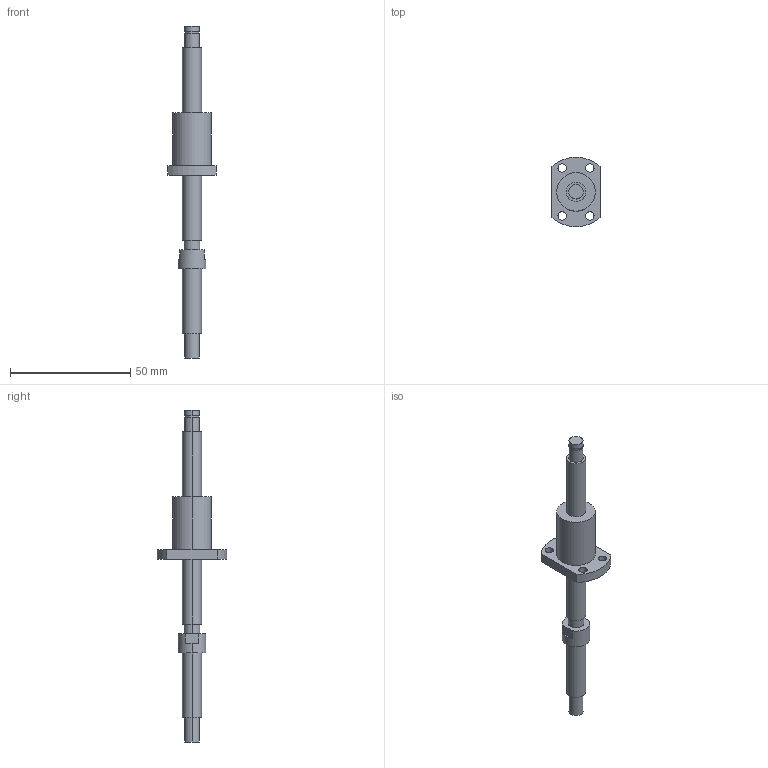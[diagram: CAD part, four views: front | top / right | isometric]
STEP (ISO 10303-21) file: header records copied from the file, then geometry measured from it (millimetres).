
FILE_DESCRIPTION((''),'2;1');
FILE_NAME('R8-2T3-FSI-80-138','2008-03-28T',('mahdi'),(''),'PRO/ENGINEER BY PARAMETRIC TECHNOLOGY CORPORATION, 2005070','PRO/ENGINEER BY PARAMETRIC TECHNOLOGY CORPORATION, 2005070','');
FILE_SCHEMA(('CONFIG_CONTROL_DESIGN'));
Length unit declared in the file: millimetre
Products named in the file (1): R8-2T3-FSI-80-138
Bounding box: 20 x 28.9 x 138 mm (x, y, z)
Volume: 11936.6 mm3; surface area: 5518 mm2
Topology: 1 solids, 1 shells, 48 faces, 108 edges, 72 vertices
Faces by surface type: cylinder 30, plane 18
Entity records: 1430 total; most frequent: DIRECTION 268, CARTESIAN_POINT 228, ORIENTED_EDGE 216, AXIS2_PLACEMENT_3D 112, EDGE_CURVE 108, VERTEX_POINT 72, EDGE_LOOP 66, CIRCLE 64
